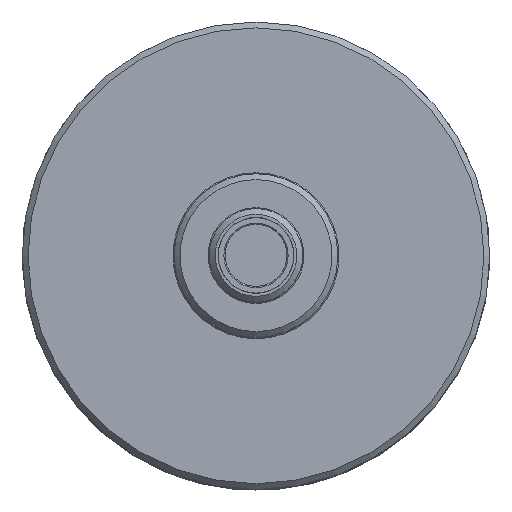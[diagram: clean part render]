
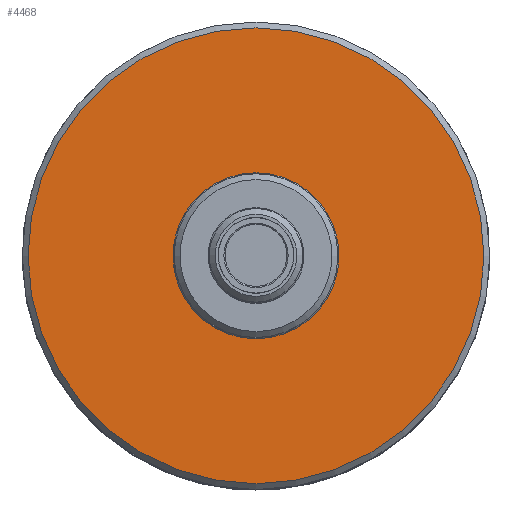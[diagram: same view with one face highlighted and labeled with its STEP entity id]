
A CAD part, top view. The second image highlights one B-rep face of the part: STEP entity #4468.
In plain terms, the highlighted planar face has unit normal (0, 0, 1).
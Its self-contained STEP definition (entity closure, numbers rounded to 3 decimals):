
#383 = FACE_OUTER_BOUND ( 'NONE', #5481, .T. ) ;
#1135 = CIRCLE ( 'NONE', #1977, 7.1 ) ;
#1241 = DIRECTION ( 'NONE',  ( 1., 0., 0. ) ) ;
#1977 = AXIS2_PLACEMENT_3D ( 'NONE', #10300, #2056, #3066 ) ;
#2056 = DIRECTION ( 'NONE',  ( 0., 0., -1. ) ) ;
#3022 = VERTEX_POINT ( 'NONE', #6234 ) ;
#3066 = DIRECTION ( 'NONE',  ( 1., 0., 0. ) ) ;
#3450 = CARTESIAN_POINT ( 'NONE',  ( 0., 0., 5. ) ) ;
#4468 = ADVANCED_FACE ( 'NONE', ( #9496, #383 ), #10420, .T. ) ;
#4563 = CIRCLE ( 'NONE', #8867, 19.5 ) ;
#5481 = EDGE_LOOP ( 'NONE', ( #7451 ) ) ;
#6234 = CARTESIAN_POINT ( 'NONE',  ( 19.5, 0., 5. ) ) ;
#6895 = ORIENTED_EDGE ( 'NONE', *, *, #8508, .T. ) ;
#7408 = CARTESIAN_POINT ( 'NONE',  ( -50., 0., 5. ) ) ;
#7451 = ORIENTED_EDGE ( 'NONE', *, *, #9711, .T. ) ;
#8182 = EDGE_LOOP ( 'NONE', ( #6895 ) ) ;
#8508 = EDGE_CURVE ( 'NONE', #12494, #12494, #1135, .T. ) ;
#8678 = DIRECTION ( 'NONE',  ( 0., 0., 1. ) ) ;
#8867 = AXIS2_PLACEMENT_3D ( 'NONE', #3450, #8678, #10688 ) ;
#9496 = FACE_BOUND ( 'NONE', #8182, .T. ) ;
#9628 = DIRECTION ( 'NONE',  ( 0., 0., 1. ) ) ;
#9711 = EDGE_CURVE ( 'NONE', #3022, #3022, #4563, .T. ) ;
#10300 = CARTESIAN_POINT ( 'NONE',  ( 0., 0., 5. ) ) ;
#10420 = PLANE ( 'NONE',  #11140 ) ;
#10688 = DIRECTION ( 'NONE',  ( 1., 0., 0. ) ) ;
#11140 = AXIS2_PLACEMENT_3D ( 'NONE', #7408, #9628, #1241 ) ;
#11557 = CARTESIAN_POINT ( 'NONE',  ( 7.1, 0., 5. ) ) ;
#12494 = VERTEX_POINT ( 'NONE', #11557 ) ;
